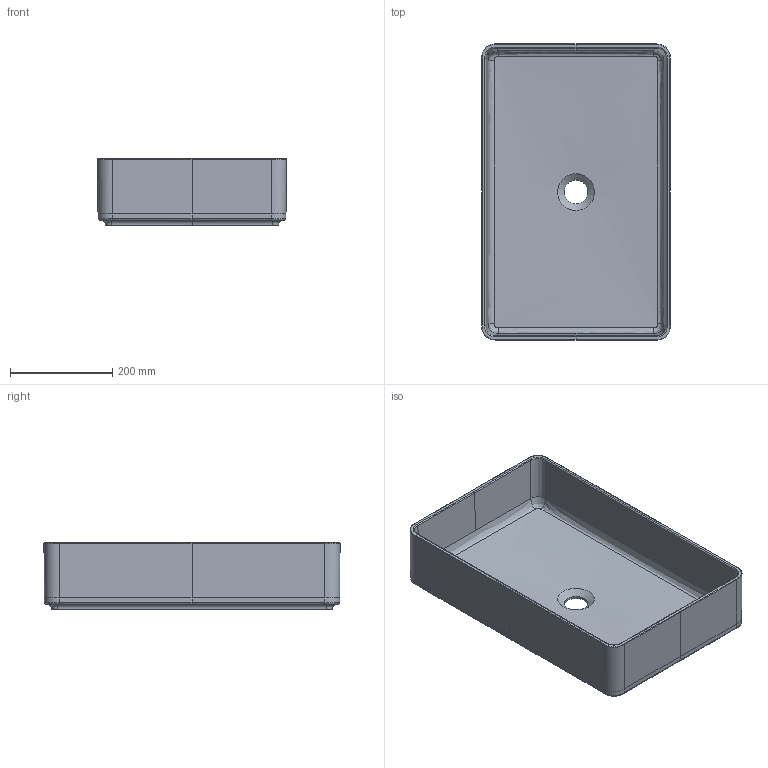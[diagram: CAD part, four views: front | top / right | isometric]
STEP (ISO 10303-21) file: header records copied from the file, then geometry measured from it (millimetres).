
FILE_DESCRIPTION(/* description */ (''),/* implementation_level */ '2;1');
FILE_NAME(/* name */ 'minima_RETTANGOLO 58X37.stp',/* time_stamp */ '2014-01-22T16:49:24+01:00',/* author */ (''),/* organization */ (''),/* preprocessor_version */ 'ST-DEVELOPER v15',/* originating_system */ 'SIEMENS PLM Software NX 8.5',/* authorisation */ '');
FILE_SCHEMA (('AP203_CONFIGURATION_CONTROLLED_3D_DESIGN_OF_MECHANICAL_PARTS_AND_ASSEMBLIES_MIM_LF { 1 0 10303 403 2 1 2}'));
Length unit declared in the file: millimetre
Products named in the file (1): Robe1004687Asq36
Bounding box: 369.98 x 579.98 x 130 mm (x, y, z)
Volume: 4884859.3 mm3; surface area: 836960.3 mm2
Topology: 1 solids, 1 shells, 136 faces, 319 edges, 181 vertices
Faces by surface type: bspline 67, plane 36, cylinder 27, sphere 5, cone 1
Full cylindrical faces by diameter (mm): 10 x2, 46.029 x1
Entity records: 10838 total; most frequent: CARTESIAN_POINT 8309, ORIENTED_EDGE 604, DIRECTION 342, EDGE_CURVE 302, VERTEX_POINT 178, EDGE_LOOP 146, ADVANCED_FACE 135, B_SPLINE_CURVE_WITH_KNOTS 135
